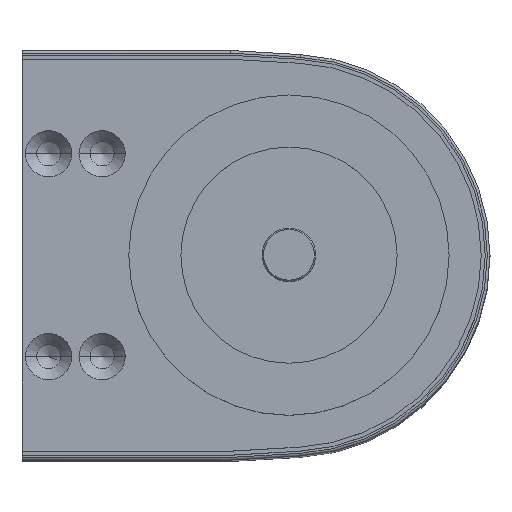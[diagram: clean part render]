
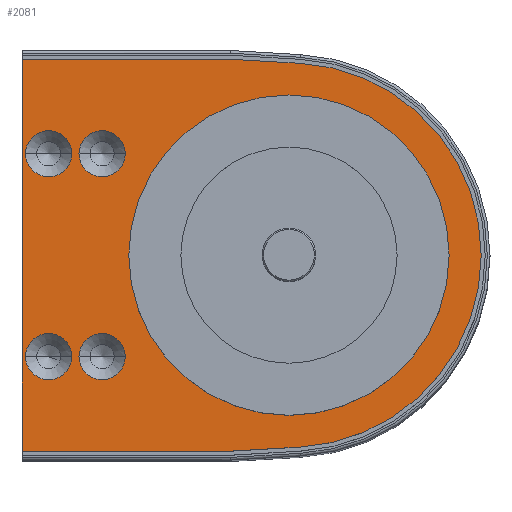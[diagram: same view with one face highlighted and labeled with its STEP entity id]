
A CAD part, top view. The second image highlights one B-rep face of the part: STEP entity #2081.
In plain terms, the highlighted planar face has unit normal (0, 0, 1).
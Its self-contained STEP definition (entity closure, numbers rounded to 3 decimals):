
#18 = DIRECTION ( 'NONE',  ( 1., 0., 0. ) ) ;
#70 = VECTOR ( 'NONE', #772, 1000. ) ;
#157 = CARTESIAN_POINT ( 'NONE',  ( -70., -38., 171. ) ) ;
#255 = VECTOR ( 'NONE', #2371, 1000. ) ;
#263 = CARTESIAN_POINT ( 'NONE',  ( -21.968, 73.4, 171. ) ) ;
#329 = ORIENTED_EDGE ( 'NONE', *, *, #561, .F. ) ;
#351 = CIRCLE ( 'NONE', #1619, 60. ) ;
#361 = EDGE_CURVE ( 'NONE', #2527, #4042, #1147, .T. ) ;
#373 = FACE_BOUND ( 'NONE', #1210, .T. ) ;
#374 = EDGE_CURVE ( 'NONE', #2422, #2618, #2599, .T. ) ;
#407 = DIRECTION ( 'NONE',  ( 1., 0., 0. ) ) ;
#419 = DIRECTION ( 'NONE',  ( 1., 0., 0. ) ) ;
#462 = VERTEX_POINT ( 'NONE', #2298 ) ;
#469 = CARTESIAN_POINT ( 'NONE',  ( -21.968, -73.4, 171. ) ) ;
#476 = DIRECTION ( 'NONE',  ( 0., 0., 1. ) ) ;
#489 = EDGE_LOOP ( 'NONE', ( #1512, #2137 ) ) ;
#517 = CARTESIAN_POINT ( 'NONE',  ( 0., 0., 171. ) ) ;
#559 = VECTOR ( 'NONE', #2481, 1000. ) ;
#560 = VERTEX_POINT ( 'NONE', #469 ) ;
#561 = EDGE_CURVE ( 'NONE', #585, #2560, #3653, .T. ) ;
#585 = VERTEX_POINT ( 'NONE', #3560 ) ;
#612 = CARTESIAN_POINT ( 'NONE',  ( 0., 0., 171. ) ) ;
#620 = DIRECTION ( 'NONE',  ( 0., 0., 1. ) ) ;
#633 = CARTESIAN_POINT ( 'NONE',  ( -100., -73.4, 171. ) ) ;
#648 = AXIS2_PLACEMENT_3D ( 'NONE', #2210, #620, #3108 ) ;
#712 = CARTESIAN_POINT ( 'NONE',  ( -70., 38., 171. ) ) ;
#727 = AXIS2_PLACEMENT_3D ( 'NONE', #1934, #2869, #2554 ) ;
#741 = DIRECTION ( 'NONE',  ( 0., 0., 1. ) ) ;
#752 = EDGE_LOOP ( 'NONE', ( #329, #3230 ) ) ;
#772 = DIRECTION ( 'NONE',  ( 0., -1., 0. ) ) ;
#793 = ORIENTED_EDGE ( 'NONE', *, *, #1756, .F. ) ;
#841 = CIRCLE ( 'NONE', #1139, 8.65 ) ;
#865 = CARTESIAN_POINT ( 'NONE',  ( -100., 73.4, 171. ) ) ;
#869 = EDGE_CURVE ( 'NONE', #560, #1602, #2152, .T. ) ;
#897 = EDGE_CURVE ( 'NONE', #462, #2281, #2636, .T. ) ;
#969 = EDGE_LOOP ( 'NONE', ( #1157, #793 ) ) ;
#1007 = ORIENTED_EDGE ( 'NONE', *, *, #374, .T. ) ;
#1036 = VERTEX_POINT ( 'NONE', #263 ) ;
#1073 = EDGE_CURVE ( 'NONE', #2217, #4031, #2976, .T. ) ;
#1075 = ORIENTED_EDGE ( 'NONE', *, *, #897, .F. ) ;
#1087 = CARTESIAN_POINT ( 'NONE',  ( -90., 38., 171. ) ) ;
#1090 = DIRECTION ( 'NONE',  ( 1., 0., 0. ) ) ;
#1099 = DIRECTION ( 'NONE',  ( 1., 0., 0. ) ) ;
#1127 = CARTESIAN_POINT ( 'NONE',  ( -78.65, -38., 171. ) ) ;
#1129 = AXIS2_PLACEMENT_3D ( 'NONE', #1727, #2320, #1355 ) ;
#1139 = AXIS2_PLACEMENT_3D ( 'NONE', #2252, #741, #407 ) ;
#1147 = CIRCLE ( 'NONE', #3924, 8.65 ) ;
#1157 = ORIENTED_EDGE ( 'NONE', *, *, #1073, .F. ) ;
#1169 = EDGE_LOOP ( 'NONE', ( #2917, #1007, #3390, #2520, #3012, #1331 ) ) ;
#1176 = LINE ( 'NONE', #1340, #2141 ) ;
#1210 = EDGE_LOOP ( 'NONE', ( #3164, #2177 ) ) ;
#1217 = AXIS2_PLACEMENT_3D ( 'NONE', #612, #3415, #3429 ) ;
#1282 = EDGE_CURVE ( 'NONE', #2618, #560, #2818, .T. ) ;
#1298 = DIRECTION ( 'NONE',  ( 0.998, -0.058, 0. ) ) ;
#1328 = CARTESIAN_POINT ( 'NONE',  ( -61.35, -38., 171. ) ) ;
#1331 = ORIENTED_EDGE ( 'NONE', *, *, #3817, .F. ) ;
#1340 = CARTESIAN_POINT ( 'NONE',  ( -100., 73.4, 171. ) ) ;
#1355 = DIRECTION ( 'NONE',  ( 1., 0., 0. ) ) ;
#1390 = DIRECTION ( 'NONE',  ( 1., 0., 0. ) ) ;
#1402 = CARTESIAN_POINT ( 'NONE',  ( -100., 73.4, 171. ) ) ;
#1442 = CARTESIAN_POINT ( 'NONE',  ( -98.65, 38., 171. ) ) ;
#1512 = ORIENTED_EDGE ( 'NONE', *, *, #2260, .F. ) ;
#1561 = PLANE ( 'NONE',  #648 ) ;
#1588 = CARTESIAN_POINT ( 'NONE',  ( -90., -38., 171. ) ) ;
#1593 = FACE_BOUND ( 'NONE', #969, .T. ) ;
#1602 = VERTEX_POINT ( 'NONE', #3341 ) ;
#1619 = AXIS2_PLACEMENT_3D ( 'NONE', #517, #476, #1390 ) ;
#1635 = CIRCLE ( 'NONE', #3829, 8.65 ) ;
#1647 = DIRECTION ( 'NONE',  ( 1., 0., 0. ) ) ;
#1680 = FACE_OUTER_BOUND ( 'NONE', #1169, .T. ) ;
#1716 = DIRECTION ( 'NONE',  ( 0., 0., 1. ) ) ;
#1720 = DIRECTION ( 'NONE',  ( 0., 0., 1. ) ) ;
#1727 = CARTESIAN_POINT ( 'NONE',  ( 0., 0., 171. ) ) ;
#1756 = EDGE_CURVE ( 'NONE', #4031, #2217, #1635, .T. ) ;
#1821 = EDGE_CURVE ( 'NONE', #2281, #462, #3219, .T. ) ;
#1825 = DIRECTION ( 'NONE',  ( 0., 0., 1. ) ) ;
#1901 = DIRECTION ( 'NONE',  ( 0., 0., 1. ) ) ;
#1913 = CARTESIAN_POINT ( 'NONE',  ( -21.968, -73.4, 171. ) ) ;
#1934 = CARTESIAN_POINT ( 'NONE',  ( -70., -38., 171. ) ) ;
#1947 = DIRECTION ( 'NONE',  ( 0., 0., 1. ) ) ;
#1986 = CARTESIAN_POINT ( 'NONE',  ( -78.65, 38., 171. ) ) ;
#2004 = EDGE_CURVE ( 'NONE', #1602, #3181, #2259, .T. ) ;
#2038 = CARTESIAN_POINT ( 'NONE',  ( -90., 38., 171. ) ) ;
#2067 = VERTEX_POINT ( 'NONE', #3133 ) ;
#2072 = CARTESIAN_POINT ( 'NONE',  ( -81.35, 38., 171. ) ) ;
#2081 = ADVANCED_FACE ( 'NONE', ( #1680, #3700, #1593, #2987, #373, #3503 ), #1561, .T. ) ;
#2137 = ORIENTED_EDGE ( 'NONE', *, *, #3412, .F. ) ;
#2141 = VECTOR ( 'NONE', #1647, 1000. ) ;
#2152 = LINE ( 'NONE', #1913, #559 ) ;
#2177 = ORIENTED_EDGE ( 'NONE', *, *, #3587, .F. ) ;
#2210 = CARTESIAN_POINT ( 'NONE',  ( 0., 0., 171. ) ) ;
#2217 = VERTEX_POINT ( 'NONE', #1328 ) ;
#2252 = CARTESIAN_POINT ( 'NONE',  ( -70., 38., 171. ) ) ;
#2259 = CIRCLE ( 'NONE', #1217, 72. ) ;
#2260 = EDGE_CURVE ( 'NONE', #2067, #2385, #841, .T. ) ;
#2281 = VERTEX_POINT ( 'NONE', #2872 ) ;
#2298 = CARTESIAN_POINT ( 'NONE',  ( -81.35, -38., 171. ) ) ;
#2320 = DIRECTION ( 'NONE',  ( 0., 0., 1. ) ) ;
#2361 = AXIS2_PLACEMENT_3D ( 'NONE', #712, #1947, #419 ) ;
#2371 = DIRECTION ( 'NONE',  ( 1., 0., 0. ) ) ;
#2385 = VERTEX_POINT ( 'NONE', #1986 ) ;
#2399 = ORIENTED_EDGE ( 'NONE', *, *, #1821, .F. ) ;
#2422 = VERTEX_POINT ( 'NONE', #865 ) ;
#2481 = DIRECTION ( 'NONE',  ( 0.998, 0.058, 0. ) ) ;
#2520 = ORIENTED_EDGE ( 'NONE', *, *, #869, .T. ) ;
#2527 = VERTEX_POINT ( 'NONE', #2072 ) ;
#2554 = DIRECTION ( 'NONE',  ( 1., 0., 0. ) ) ;
#2560 = VERTEX_POINT ( 'NONE', #2985 ) ;
#2599 = LINE ( 'NONE', #1402, #70 ) ;
#2609 = VECTOR ( 'NONE', #1298, 1000. ) ;
#2618 = VERTEX_POINT ( 'NONE', #633 ) ;
#2636 = CIRCLE ( 'NONE', #2920, 8.65 ) ;
#2684 = CARTESIAN_POINT ( 'NONE',  ( -100., -73.4, 171. ) ) ;
#2818 = LINE ( 'NONE', #2684, #255 ) ;
#2860 = CIRCLE ( 'NONE', #2989, 8.65 ) ;
#2869 = DIRECTION ( 'NONE',  ( 0., 0., 1. ) ) ;
#2872 = CARTESIAN_POINT ( 'NONE',  ( -98.65, -38., 171. ) ) ;
#2917 = ORIENTED_EDGE ( 'NONE', *, *, #3453, .F. ) ;
#2920 = AXIS2_PLACEMENT_3D ( 'NONE', #1588, #1901, #18 ) ;
#2976 = CIRCLE ( 'NONE', #727, 8.65 ) ;
#2985 = CARTESIAN_POINT ( 'NONE',  ( 60., 0., 171. ) ) ;
#2987 = FACE_BOUND ( 'NONE', #489, .T. ) ;
#2989 = AXIS2_PLACEMENT_3D ( 'NONE', #2038, #1720, #1090 ) ;
#3012 = ORIENTED_EDGE ( 'NONE', *, *, #2004, .T. ) ;
#3048 = EDGE_LOOP ( 'NONE', ( #1075, #2399 ) ) ;
#3108 = DIRECTION ( 'NONE',  ( 1., 0., 0. ) ) ;
#3133 = CARTESIAN_POINT ( 'NONE',  ( -61.35, 38., 171. ) ) ;
#3164 = ORIENTED_EDGE ( 'NONE', *, *, #361, .F. ) ;
#3181 = VERTEX_POINT ( 'NONE', #3280 ) ;
#3219 = CIRCLE ( 'NONE', #3410, 8.65 ) ;
#3230 = ORIENTED_EDGE ( 'NONE', *, *, #3552, .F. ) ;
#3243 = DIRECTION ( 'NONE',  ( 1., 0., 0. ) ) ;
#3280 = CARTESIAN_POINT ( 'NONE',  ( 4.182, 71.878, 171. ) ) ;
#3341 = CARTESIAN_POINT ( 'NONE',  ( 4.182, -71.878, 171. ) ) ;
#3348 = CIRCLE ( 'NONE', #2361, 8.65 ) ;
#3364 = DIRECTION ( 'NONE',  ( 1., 0., 0. ) ) ;
#3390 = ORIENTED_EDGE ( 'NONE', *, *, #1282, .T. ) ;
#3410 = AXIS2_PLACEMENT_3D ( 'NONE', #3662, #1825, #3364 ) ;
#3412 = EDGE_CURVE ( 'NONE', #2385, #2067, #3348, .T. ) ;
#3415 = DIRECTION ( 'NONE',  ( 0., 0., 1. ) ) ;
#3429 = DIRECTION ( 'NONE',  ( 1., 0., 0. ) ) ;
#3453 = EDGE_CURVE ( 'NONE', #2422, #1036, #1176, .T. ) ;
#3503 = FACE_BOUND ( 'NONE', #752, .T. ) ;
#3535 = CARTESIAN_POINT ( 'NONE',  ( -21.968, 73.4, 171. ) ) ;
#3552 = EDGE_CURVE ( 'NONE', #2560, #585, #351, .T. ) ;
#3560 = CARTESIAN_POINT ( 'NONE',  ( -60., 0., 171. ) ) ;
#3587 = EDGE_CURVE ( 'NONE', #4042, #2527, #2860, .T. ) ;
#3653 = CIRCLE ( 'NONE', #1129, 60. ) ;
#3662 = CARTESIAN_POINT ( 'NONE',  ( -90., -38., 171. ) ) ;
#3700 = FACE_BOUND ( 'NONE', #3048, .T. ) ;
#3817 = EDGE_CURVE ( 'NONE', #1036, #3181, #4018, .T. ) ;
#3829 = AXIS2_PLACEMENT_3D ( 'NONE', #157, #1716, #3243 ) ;
#3852 = DIRECTION ( 'NONE',  ( 0., 0., 1. ) ) ;
#3924 = AXIS2_PLACEMENT_3D ( 'NONE', #1087, #3852, #1099 ) ;
#4018 = LINE ( 'NONE', #3535, #2609 ) ;
#4031 = VERTEX_POINT ( 'NONE', #1127 ) ;
#4042 = VERTEX_POINT ( 'NONE', #1442 ) ;
